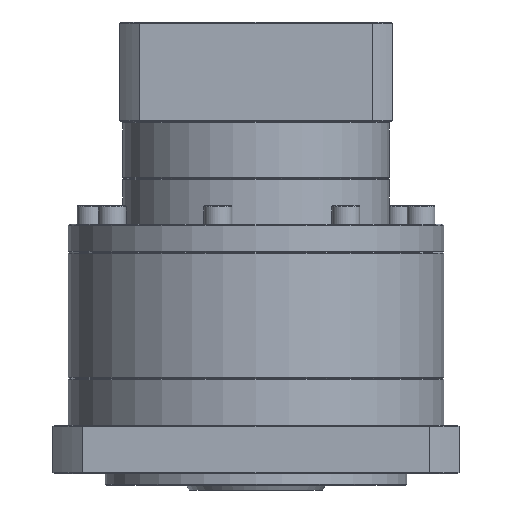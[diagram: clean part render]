
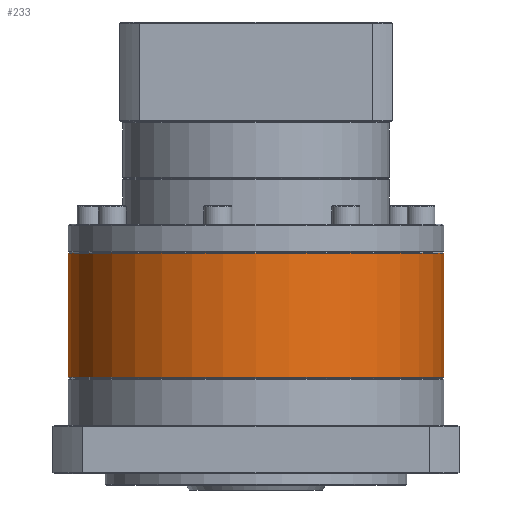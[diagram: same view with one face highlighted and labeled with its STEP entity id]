
A CAD part, front view. The second image highlights one B-rep face of the part: STEP entity #233.
In plain terms, the highlighted cylindrical face has radius 81 mm (diameter 162 mm), a partial arc.
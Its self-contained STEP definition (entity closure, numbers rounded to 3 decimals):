
#233 = ADVANCED_FACE ( 'NONE', ( #73260 ), #38770, .T. ) ;
#1516 = DIRECTION ( 'NONE',  ( 0., 0., -1. ) ) ;
#1529 = ORIENTED_EDGE ( 'NONE', *, *, #21110, .F. ) ;
#4020 = VERTEX_POINT ( 'NONE', #126737 ) ;
#4974 = DIRECTION ( 'NONE',  ( -1., 0., 0. ) ) ;
#5001 = CIRCLE ( 'NONE', #33688, 81. ) ;
#8220 = AXIS2_PLACEMENT_3D ( 'NONE', #106591, #54374, #43833 ) ;
#10215 = DIRECTION ( 'NONE',  ( 0., 0., -1. ) ) ;
#11099 = CARTESIAN_POINT ( 'NONE',  ( -122.797, 115.251, -78.908 ) ) ;
#12547 = ORIENTED_EDGE ( 'NONE', *, *, #18711, .T. ) ;
#18711 = EDGE_CURVE ( 'NONE', #53609, #121862, #5001, .T. ) ;
#21110 = EDGE_CURVE ( 'NONE', #53609, #98982, #62924, .T. ) ;
#26542 = CARTESIAN_POINT ( 'NONE',  ( -122.797, 115.251, -79.408 ) ) ;
#28310 = LINE ( 'NONE', #59065, #115106 ) ;
#33688 = AXIS2_PLACEMENT_3D ( 'NONE', #54225, #1516, #43685 ) ;
#38770 = CYLINDRICAL_SURFACE ( 'NONE', #39179, 81. ) ;
#39179 = AXIS2_PLACEMENT_3D ( 'NONE', #11099, #10215, #96341 ) ;
#43685 = DIRECTION ( 'NONE',  ( -1., 0., 0. ) ) ;
#43833 = DIRECTION ( 'NONE',  ( 1., 0., 0. ) ) ;
#48005 = CARTESIAN_POINT ( 'NONE',  ( -41.797, 115.251, -78.908 ) ) ;
#53609 = VERTEX_POINT ( 'NONE', #113626 ) ;
#53709 = VERTEX_POINT ( 'NONE', #125049 ) ;
#54225 = CARTESIAN_POINT ( 'NONE',  ( -122.797, 115.251, -79.408 ) ) ;
#54374 = DIRECTION ( 'NONE',  ( 0., 0., -1. ) ) ;
#57224 = DIRECTION ( 'NONE',  ( 0., 0., -1. ) ) ;
#59065 = CARTESIAN_POINT ( 'NONE',  ( -203.797, 115.251, -78.908 ) ) ;
#59616 = VECTOR ( 'NONE', #57224, 1000. ) ;
#62924 = LINE ( 'NONE', #48005, #59616 ) ;
#63317 = CARTESIAN_POINT ( 'NONE',  ( -122.797, 34.251, -79.408 ) ) ;
#64281 = EDGE_LOOP ( 'NONE', ( #1529, #12547, #129440, #68239, #122921 ) ) ;
#68239 = ORIENTED_EDGE ( 'NONE', *, *, #74483, .T. ) ;
#69139 = DIRECTION ( 'NONE',  ( 0., 0., -1. ) ) ;
#73260 = FACE_OUTER_BOUND ( 'NONE', #64281, .T. ) ;
#73781 = AXIS2_PLACEMENT_3D ( 'NONE', #26542, #69139, #4974 ) ;
#74483 = EDGE_CURVE ( 'NONE', #4020, #53709, #28310, .T. ) ;
#81518 = EDGE_CURVE ( 'NONE', #121862, #4020, #85568, .T. ) ;
#85568 = CIRCLE ( 'NONE', #73781, 81. ) ;
#96341 = DIRECTION ( 'NONE',  ( -1., 0., 0. ) ) ;
#98982 = VERTEX_POINT ( 'NONE', #124177 ) ;
#103613 = CIRCLE ( 'NONE', #8220, 81. ) ;
#106591 = CARTESIAN_POINT ( 'NONE',  ( -122.797, 115.251, -132.908 ) ) ;
#109421 = DIRECTION ( 'NONE',  ( 0., 0., -1. ) ) ;
#113626 = CARTESIAN_POINT ( 'NONE',  ( -41.797, 115.251, -79.408 ) ) ;
#115106 = VECTOR ( 'NONE', #109421, 1000. ) ;
#117004 = EDGE_CURVE ( 'NONE', #98982, #53709, #103613, .T. ) ;
#121862 = VERTEX_POINT ( 'NONE', #63317 ) ;
#122921 = ORIENTED_EDGE ( 'NONE', *, *, #117004, .F. ) ;
#124177 = CARTESIAN_POINT ( 'NONE',  ( -41.797, 115.251, -132.908 ) ) ;
#125049 = CARTESIAN_POINT ( 'NONE',  ( -203.797, 115.251, -132.908 ) ) ;
#126737 = CARTESIAN_POINT ( 'NONE',  ( -203.797, 115.251, -79.408 ) ) ;
#129440 = ORIENTED_EDGE ( 'NONE', *, *, #81518, .T. ) ;
